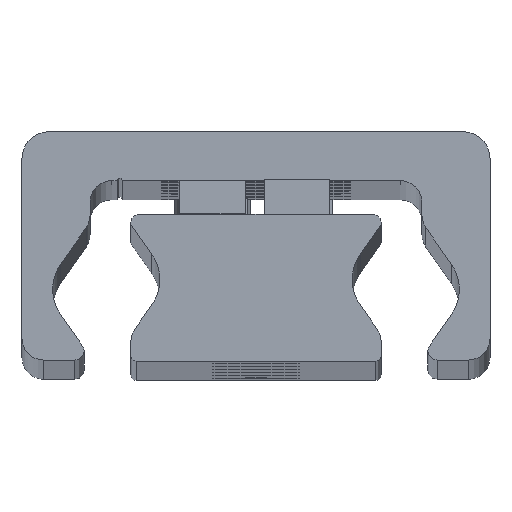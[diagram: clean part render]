
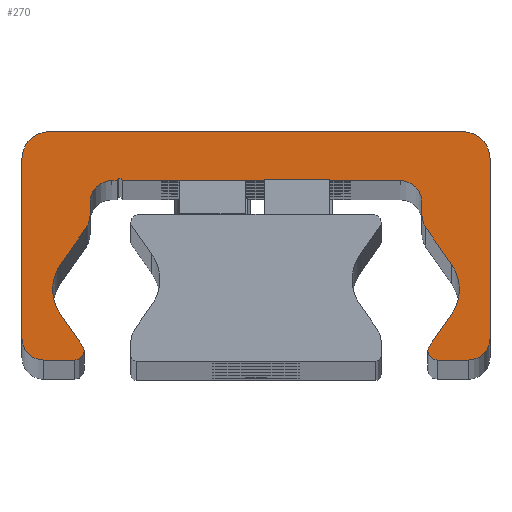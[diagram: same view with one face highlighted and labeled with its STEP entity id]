
A CAD part, top view. The second image highlights one B-rep face of the part: STEP entity #270.
In plain terms, the highlighted planar face has unit normal (0, 0, 1).
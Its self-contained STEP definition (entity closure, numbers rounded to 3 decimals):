
#270=ADVANCED_FACE('',(#740),#741,.T.);
#740=FACE_OUTER_BOUND('',#1211,.T.);
#741=PLANE('',#1212);
#1211=EDGE_LOOP('',(#2802,#2803,#2804,#2805,#2806,#2807,#2808,#2809,#2810,#2811,#2812,#2813,#2814,#2815,#2816,#2817,#2818,#2819,#2820,#2821,#2822,#2823,#2824,#2825,#2826,#2827,#2828,#2829,#2830,#2831));
#1212=AXIS2_PLACEMENT_3D('',#2832,#2833,#2834);
#2802=ORIENTED_EDGE('',*,*,#3149,.F.);
#2803=ORIENTED_EDGE('',*,*,#3382,.F.);
#2804=ORIENTED_EDGE('',*,*,#3135,.F.);
#2805=ORIENTED_EDGE('',*,*,#3381,.F.);
#2806=ORIENTED_EDGE('',*,*,#3377,.F.);
#2807=ORIENTED_EDGE('',*,*,#3374,.F.);
#2808=ORIENTED_EDGE('',*,*,#3371,.F.);
#2809=ORIENTED_EDGE('',*,*,#3368,.F.);
#2810=ORIENTED_EDGE('',*,*,#3365,.F.);
#2811=ORIENTED_EDGE('',*,*,#3362,.F.);
#2812=ORIENTED_EDGE('',*,*,#3359,.F.);
#2813=ORIENTED_EDGE('',*,*,#3356,.F.);
#2814=ORIENTED_EDGE('',*,*,#3353,.F.);
#2815=ORIENTED_EDGE('',*,*,#3350,.F.);
#2816=ORIENTED_EDGE('',*,*,#3141,.F.);
#2817=ORIENTED_EDGE('',*,*,#3348,.F.);
#2818=ORIENTED_EDGE('',*,*,#3143,.F.);
#2819=ORIENTED_EDGE('',*,*,#3347,.F.);
#2820=ORIENTED_EDGE('',*,*,#3343,.F.);
#2821=ORIENTED_EDGE('',*,*,#3340,.F.);
#2822=ORIENTED_EDGE('',*,*,#3337,.F.);
#2823=ORIENTED_EDGE('',*,*,#3334,.F.);
#2824=ORIENTED_EDGE('',*,*,#3331,.F.);
#2825=ORIENTED_EDGE('',*,*,#3328,.F.);
#2826=ORIENTED_EDGE('',*,*,#3325,.F.);
#2827=ORIENTED_EDGE('',*,*,#3322,.F.);
#2828=ORIENTED_EDGE('',*,*,#3319,.F.);
#2829=ORIENTED_EDGE('',*,*,#3316,.F.);
#2830=ORIENTED_EDGE('',*,*,#3313,.F.);
#2831=ORIENTED_EDGE('',*,*,#3310,.F.);
#2832=CARTESIAN_POINT('',(-0.023,14.187,492.0));
#2833=DIRECTION('',(0.0,0.0,1.0));
#2834=DIRECTION('',(1.0,0.0,0.0));
#3135=EDGE_CURVE('',#3810,#3813,#3814,.T.);
#3141=EDGE_CURVE('',#3823,#3819,#3825,.T.);
#3143=EDGE_CURVE('',#3826,#3829,#3830,.T.);
#3149=EDGE_CURVE('',#3839,#3835,#3841,.T.);
#3310=EDGE_CURVE('',#3835,#4100,#4101,.T.);
#3313=EDGE_CURVE('',#4100,#4105,#4106,.T.);
#3316=EDGE_CURVE('',#4105,#4110,#4111,.T.);
#3319=EDGE_CURVE('',#4110,#4115,#4116,.T.);
#3322=EDGE_CURVE('',#4115,#4120,#4121,.T.);
#3325=EDGE_CURVE('',#4120,#4125,#4126,.T.);
#3328=EDGE_CURVE('',#4125,#4130,#4131,.T.);
#3331=EDGE_CURVE('',#4130,#4135,#4136,.T.);
#3334=EDGE_CURVE('',#4135,#4140,#4141,.T.);
#3337=EDGE_CURVE('',#4140,#4145,#4146,.T.);
#3340=EDGE_CURVE('',#4145,#4150,#4151,.T.);
#3343=EDGE_CURVE('',#4150,#4155,#4156,.T.);
#3347=EDGE_CURVE('',#4155,#3826,#4161,.T.);
#3348=EDGE_CURVE('',#3829,#3823,#4162,.T.);
#3350=EDGE_CURVE('',#3819,#4164,#4165,.T.);
#3353=EDGE_CURVE('',#4164,#4169,#4170,.T.);
#3356=EDGE_CURVE('',#4169,#4174,#4175,.T.);
#3359=EDGE_CURVE('',#4174,#4179,#4180,.T.);
#3362=EDGE_CURVE('',#4179,#4184,#4185,.T.);
#3365=EDGE_CURVE('',#4184,#4189,#4190,.T.);
#3368=EDGE_CURVE('',#4189,#4194,#4195,.T.);
#3371=EDGE_CURVE('',#4194,#4199,#4200,.T.);
#3374=EDGE_CURVE('',#4199,#4204,#4205,.T.);
#3377=EDGE_CURVE('',#4204,#4209,#4210,.T.);
#3381=EDGE_CURVE('',#4209,#3810,#4215,.T.);
#3382=EDGE_CURVE('',#3813,#3839,#4216,.T.);
#3810=VERTEX_POINT('',#4782);
#3813=VERTEX_POINT('',#4786);
#3814=CIRCLE('',#4787,0.85);
#3819=VERTEX_POINT('',#4793);
#3823=VERTEX_POINT('',#4798);
#3825=CIRCLE('',#4801,0.85);
#3826=VERTEX_POINT('',#4802);
#3829=VERTEX_POINT('',#4806);
#3830=CIRCLE('',#4807,4.);
#3835=VERTEX_POINT('',#4813);
#3839=VERTEX_POINT('',#4818);
#3841=CIRCLE('',#4821,4.);
#4100=VERTEX_POINT('',#5158);
#4101=CIRCLE('',#5159,4.);
#4105=VERTEX_POINT('',#5164);
#4106=LINE('',#5165,#5166);
#4110=VERTEX_POINT('',#5172);
#4111=CIRCLE('',#5173,2.);
#4115=VERTEX_POINT('',#5178);
#4116=LINE('',#5179,#5180);
#4120=VERTEX_POINT('',#5186);
#4121=CIRCLE('',#5187,2.0);
#4125=VERTEX_POINT('',#5192);
#4126=LINE('',#5193,#5194);
#4130=VERTEX_POINT('',#5200);
#4131=CIRCLE('',#5201,0.25);
#4135=VERTEX_POINT('',#5206);
#4136=LINE('',#5207,#5208);
#4140=VERTEX_POINT('',#5214);
#4141=CIRCLE('',#5215,2.0);
#4145=VERTEX_POINT('',#5220);
#4146=LINE('',#5221,#5222);
#4150=VERTEX_POINT('',#5228);
#4151=CIRCLE('',#5229,2.0);
#4155=VERTEX_POINT('',#5234);
#4156=LINE('',#5235,#5236);
#4161=CIRCLE('',#5243,4.);
#4162=LINE('',#5244,#5245);
#4164=VERTEX_POINT('',#5248);
#4165=CIRCLE('',#5249,0.85);
#4169=VERTEX_POINT('',#5254);
#4170=LINE('',#5255,#5256);
#4174=VERTEX_POINT('',#5262);
#4175=CIRCLE('',#5263,2.);
#4179=VERTEX_POINT('',#5268);
#4180=LINE('',#5269,#5270);
#4184=VERTEX_POINT('',#5276);
#4185=CIRCLE('',#5277,2.5);
#4189=VERTEX_POINT('',#5282);
#4190=LINE('',#5283,#5284);
#4194=VERTEX_POINT('',#5290);
#4195=CIRCLE('',#5291,2.5);
#4199=VERTEX_POINT('',#5296);
#4200=LINE('',#5297,#5298);
#4204=VERTEX_POINT('',#5304);
#4205=CIRCLE('',#5305,2.);
#4209=VERTEX_POINT('',#5310);
#4210=LINE('',#5311,#5312);
#4215=CIRCLE('',#5319,0.85);
#4216=LINE('',#5320,#5321);
#4782=CARTESIAN_POINT('',(15.8,1.859,492.0));
#4786=CARTESIAN_POINT('',(15.922,2.298,492.0));
#4787=AXIS2_PLACEMENT_3D('',#5847,#5848,#5849);
#4793=CARTESIAN_POINT('',(-15.8,1.859,492.0));
#4798=CARTESIAN_POINT('',(-15.922,2.298,492.0));
#4801=AXIS2_PLACEMENT_3D('',#5859,#5860,#5861);
#4802=CARTESIAN_POINT('',(-18.688,7.509,492.0));
#4806=CARTESIAN_POINT('',(-17.964,5.214,492.0));
#4807=AXIS2_PLACEMENT_3D('',#5863,#5864,#5865);
#4813=CARTESIAN_POINT('',(18.688,7.509,492.0));
#4818=CARTESIAN_POINT('',(17.964,5.214,492.0));
#4821=AXIS2_PLACEMENT_3D('',#5875,#5876,#5877);
#5158=CARTESIAN_POINT('',(17.964,9.803,492.0));
#5159=AXIS2_PLACEMENT_3D('',#6202,#6203,#6204);
#5164=CARTESIAN_POINT('',(15.612,13.163,492.0));
#5165=CARTESIAN_POINT('',(15.612,13.163,492.0));
#5166=VECTOR('',#6209,1.0);
#5172=CARTESIAN_POINT('',(15.25,14.31,492.0));
#5173=AXIS2_PLACEMENT_3D('',#6212,#6213,#6214);
#5178=CARTESIAN_POINT('',(15.25,15.509,492.0));
#5179=CARTESIAN_POINT('',(15.25,15.509,492.0));
#5180=VECTOR('',#6219,1.0);
#5186=CARTESIAN_POINT('',(13.25,17.509,492.0));
#5187=AXIS2_PLACEMENT_3D('',#6222,#6223,#6224);
#5192=CARTESIAN_POINT('',(-12.25,17.509,492.0));
#5193=CARTESIAN_POINT('',(-12.25,17.509,492.0));
#5194=VECTOR('',#6229,1.0);
#5200=CARTESIAN_POINT('',(-12.75,17.509,492.0));
#5201=AXIS2_PLACEMENT_3D('',#6232,#6233,#6234);
#5206=CARTESIAN_POINT('',(-13.25,17.509,492.0));
#5207=CARTESIAN_POINT('',(-13.25,17.509,492.0));
#5208=VECTOR('',#6239,1.0);
#5214=CARTESIAN_POINT('',(-15.25,15.509,492.0));
#5215=AXIS2_PLACEMENT_3D('',#6242,#6243,#6244);
#5220=CARTESIAN_POINT('',(-15.25,14.31,492.0));
#5221=CARTESIAN_POINT('',(-15.25,14.31,492.0));
#5222=VECTOR('',#6249,1.0);
#5228=CARTESIAN_POINT('',(-15.612,13.163,492.0));
#5229=AXIS2_PLACEMENT_3D('',#6252,#6253,#6254);
#5234=CARTESIAN_POINT('',(-17.964,9.803,492.0));
#5235=CARTESIAN_POINT('',(-17.964,9.803,492.0));
#5236=VECTOR('',#6259,1.);
#5243=AXIS2_PLACEMENT_3D('',#6265,#6266,#6267);
#5244=CARTESIAN_POINT('',(-15.922,2.298,492.0));
#5245=VECTOR('',#6268,1.0);
#5248=CARTESIAN_POINT('',(-16.65,1.009,492.0));
#5249=AXIS2_PLACEMENT_3D('',#6270,#6271,#6272);
#5254=CARTESIAN_POINT('',(-19.5,1.009,492.0));
#5255=CARTESIAN_POINT('',(-19.5,1.009,492.0));
#5256=VECTOR('',#6277,1.0);
#5262=CARTESIAN_POINT('',(-21.5,3.009,492.0));
#5263=AXIS2_PLACEMENT_3D('',#6280,#6281,#6282);
#5268=CARTESIAN_POINT('',(-21.5,19.509,492.0));
#5269=CARTESIAN_POINT('',(-21.5,19.509,492.0));
#5270=VECTOR('',#6287,1.0);
#5276=CARTESIAN_POINT('',(-19.0,22.009,492.0));
#5277=AXIS2_PLACEMENT_3D('',#6290,#6291,#6292);
#5282=CARTESIAN_POINT('',(19.0,22.009,492.0));
#5283=CARTESIAN_POINT('',(19.0,22.009,492.0));
#5284=VECTOR('',#6297,1.0);
#5290=CARTESIAN_POINT('',(21.5,19.509,492.0));
#5291=AXIS2_PLACEMENT_3D('',#6300,#6301,#6302);
#5296=CARTESIAN_POINT('',(21.5,3.009,492.0));
#5297=CARTESIAN_POINT('',(21.5,3.009,492.0));
#5298=VECTOR('',#6307,1.0);
#5304=CARTESIAN_POINT('',(19.5,1.009,492.0));
#5305=AXIS2_PLACEMENT_3D('',#6310,#6311,#6312);
#5310=CARTESIAN_POINT('',(16.65,1.009,492.0));
#5311=CARTESIAN_POINT('',(16.65,1.009,492.0));
#5312=VECTOR('',#6317,1.0);
#5319=AXIS2_PLACEMENT_3D('',#6323,#6324,#6325);
#5320=CARTESIAN_POINT('',(17.964,5.214,492.0));
#5321=VECTOR('',#6326,1.0);
#5847=CARTESIAN_POINT('',(16.65,1.859,492.0));
#5848=DIRECTION('',(0.0,0.0,-1.0));
#5849=DIRECTION('',(1.0,0.0,0.0));
#5859=CARTESIAN_POINT('',(-16.65,1.859,492.0));
#5860=DIRECTION('',(0.0,0.0,-1.0));
#5861=DIRECTION('',(1.0,0.0,0.0));
#5863=CARTESIAN_POINT('',(-14.688,7.509,492.0));
#5864=DIRECTION('',(0.0,0.0,1.0));
#5865=DIRECTION('',(1.0,0.0,0.0));
#5875=CARTESIAN_POINT('',(14.688,7.509,492.0));
#5876=DIRECTION('',(0.0,0.0,1.0));
#5877=DIRECTION('',(1.0,0.0,0.0));
#6202=CARTESIAN_POINT('',(14.688,7.509,492.0));
#6203=DIRECTION('',(0.0,0.0,1.0));
#6204=DIRECTION('',(1.0,0.0,0.0));
#6209=DIRECTION('',(-0.574,0.819,0.0));
#6212=CARTESIAN_POINT('',(17.25,14.31,492.0));
#6213=DIRECTION('',(0.0,0.0,-1.0));
#6214=DIRECTION('',(1.0,0.0,0.0));
#6219=DIRECTION('',(0.0,1.0,0.0));
#6222=CARTESIAN_POINT('',(13.25,15.509,492.0));
#6223=DIRECTION('',(0.0,0.0,1.0));
#6224=DIRECTION('',(1.0,0.0,0.0));
#6229=DIRECTION('',(-1.0,-0.0,-0.0));
#6232=CARTESIAN_POINT('',(-12.5,17.509,492.0));
#6233=DIRECTION('',(0.0,0.0,1.0));
#6234=DIRECTION('',(1.0,0.0,0.0));
#6239=DIRECTION('',(-1.0,-0.0,-0.0));
#6242=CARTESIAN_POINT('',(-13.25,15.509,492.0));
#6243=DIRECTION('',(0.0,0.0,1.0));
#6244=DIRECTION('',(1.0,0.0,0.0));
#6249=DIRECTION('',(-0.0,-1.0,-0.0));
#6252=CARTESIAN_POINT('',(-17.25,14.31,492.0));
#6253=DIRECTION('',(0.0,0.0,-1.0));
#6254=DIRECTION('',(1.0,0.0,0.0));
#6259=DIRECTION('',(-0.574,-0.819,-0.0));
#6265=CARTESIAN_POINT('',(-14.688,7.509,492.0));
#6266=DIRECTION('',(0.0,0.0,1.0));
#6267=DIRECTION('',(1.0,0.0,0.0));
#6268=DIRECTION('',(0.574,-0.819,0.0));
#6270=CARTESIAN_POINT('',(-16.65,1.859,492.0));
#6271=DIRECTION('',(0.0,0.0,-1.0));
#6272=DIRECTION('',(1.0,0.0,0.0));
#6277=DIRECTION('',(-1.0,-0.0,-0.0));
#6280=CARTESIAN_POINT('',(-19.5,3.009,492.0));
#6281=DIRECTION('',(0.0,0.0,-1.0));
#6282=DIRECTION('',(1.0,0.0,0.0));
#6287=DIRECTION('',(0.0,1.0,0.0));
#6290=CARTESIAN_POINT('',(-19.0,19.509,492.0));
#6291=DIRECTION('',(0.0,0.0,-1.0));
#6292=DIRECTION('',(1.0,0.0,0.0));
#6297=DIRECTION('',(1.0,0.0,0.0));
#6300=CARTESIAN_POINT('',(19.0,19.509,492.0));
#6301=DIRECTION('',(0.0,0.0,-1.0));
#6302=DIRECTION('',(1.0,0.0,0.0));
#6307=DIRECTION('',(-0.0,-1.0,-0.0));
#6310=CARTESIAN_POINT('',(19.5,3.009,492.0));
#6311=DIRECTION('',(0.0,0.0,-1.0));
#6312=DIRECTION('',(1.0,0.0,0.0));
#6317=DIRECTION('',(-1.0,-0.0,-0.0));
#6323=CARTESIAN_POINT('',(16.65,1.859,492.0));
#6324=DIRECTION('',(0.0,0.0,-1.0));
#6325=DIRECTION('',(1.0,0.0,0.0));
#6326=DIRECTION('',(0.574,0.819,0.0));
